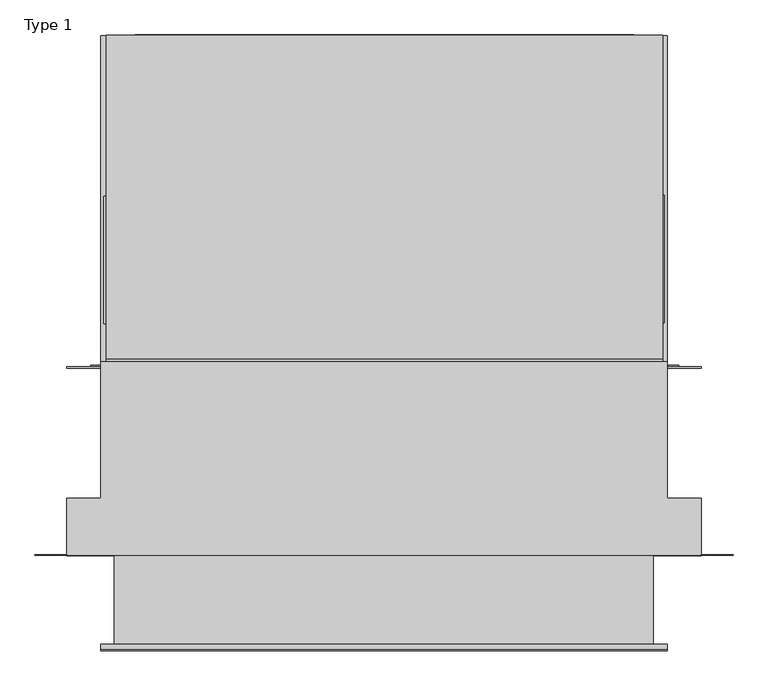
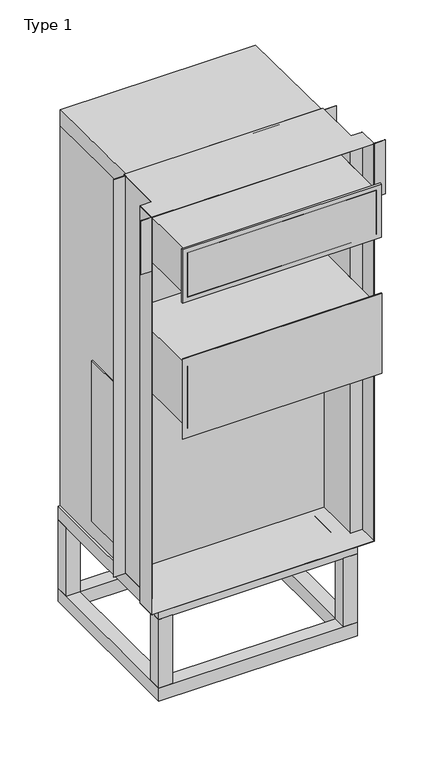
"""IFC4 building model written with IfcOpenShell, lengths in millimetres: proxy geometry, Uniflair_WMF0661_with_wallmountframe_and_Floorstand_BIM_Model : Type 1."""

import ifcopenshell
import ifcopenshell.guid

model = None  # the IFC model being written
_history = None  # IfcOwnerHistory: only IFC2X3 demands one
_inside = {}  # id of a spatial element -> (the spatial element, [elements in it])
_under = {}  # id of a project, library or spatial element -> (it, [spatial elements below it])
_declared = {}  # id of a project -> (the project, [libraries it declares])
_typed = {}  # id of a type object -> (the type object, [elements of that type])
_made_of = {}  # id of a material, layer set ... -> (it, [elements and type objects made of it])


def new_model(schema):
    """Start an empty IFC model of exactly this schema.

    Asked for "IFC4X3", IfcOpenShell would pick the latest addendum, in which some entities
    have other attributes; the version numbers below select the first issue.
    IFC2X3 requires an IfcOwnerHistory on every rooted entity: one is made here for all.
    """
    global model, _history
    if schema == "IFC4X3":
        model = ifcopenshell.file(schema_version=(4, 3, 0, 0))
    else:
        model = ifcopenshell.file(schema=schema)
    _inside.clear()
    _under.clear()
    _declared.clear()
    _typed.clear()
    _made_of.clear()
    _history = None
    if model.schema == "IFC2X3":
        org = make("IfcOrganization", Name="unknown")
        user = make(
            "IfcPersonAndOrganization",
            ThePerson=make("IfcPerson", FamilyName="unknown"),
            TheOrganization=org,
        )
        app = make(
            "IfcApplication",
            ApplicationDeveloper=org,
            Version="unknown",
            ApplicationFullName="unknown",
            ApplicationIdentifier="unknown",
        )
        _history = make(
            "IfcOwnerHistory",
            OwningUser=user,
            OwningApplication=app,
            ChangeAction="ADDED",
            CreationDate=0,
        )
    return model


def make(cls, **values):
    """One entity of the class cls with the attributes given. An attribute that is None is left unset."""
    return model.create_entity(
        cls, **{name: value for name, value in values.items() if value is not None}
    )


def rooted(cls, **values):
    """An entity with a GlobalId (a new one), such as an element, a storey or a relation."""
    return make(cls, GlobalId=ifcopenshell.guid.new(), OwnerHistory=_history, **values)


def si_unit(unit_type, name, prefix=None):
    """IfcSIUnit, for example si_unit("LENGTHUNIT", "METRE", prefix="MILLI")."""
    return make("IfcSIUnit", UnitType=unit_type, Prefix=prefix, Name=name)


def assignment(units):
    """IfcUnitAssignment: the units of a project."""
    return None if units is None else make("IfcUnitAssignment", Units=units)


def point(xyz):
    """IfcCartesianPoint."""
    return None if xyz is None else make("IfcCartesianPoint", Coordinates=xyz)


def direction(xyz):
    """IfcDirection."""
    return None if xyz is None else make("IfcDirection", DirectionRatios=xyz)


def frame(location, z_axis=None, x_axis=None):
    """IfcAxis2Placement3D, a coordinate frame: its origin and axes. An axis left out is left unset."""
    return make(
        "IfcAxis2Placement3D",
        Location=point(location),
        Axis=direction(z_axis),
        RefDirection=direction(x_axis),
    )


def frame_2d(location, x_axis=None):
    """IfcAxis2Placement2D, a coordinate frame in the plane: its origin and x axis."""
    return make(
        "IfcAxis2Placement2D", Location=point(location), RefDirection=direction(x_axis)
    )


def origin():
    """The frame at (0, 0, 0) with its axes left unset."""
    return frame((0.0, 0.0, 0.0))


def place(relative_to, where):
    """IfcLocalPlacement: puts the frame where relative to a parent placement (None: the world)."""
    return make(
        "IfcLocalPlacement", PlacementRelTo=relative_to, RelativePlacement=where
    )


def context(
    kind, dimensions, precision=None, world=None, true_north=None, identifier=None
):
    """IfcGeometricRepresentationContext, for example the 3D "Model" context."""
    return make(
        "IfcGeometricRepresentationContext",
        ContextIdentifier=identifier,
        ContextType=kind,
        CoordinateSpaceDimension=dimensions,
        Precision=precision,
        WorldCoordinateSystem=world,
        TrueNorth=true_north,
    )


def project(units=None, contexts=None):
    """IfcProject with its units and contexts."""
    return rooted(
        "IfcProject",
        Name="project",
        RepresentationContexts=contexts,
        UnitsInContext=assignment(units),
    )


def spatial(cls, under=None, at=None, **own):
    """A site, building, storey or space (cls), placed at a placement, below another one or the project."""
    s = rooted(cls, ObjectPlacement=at, **own)
    if under is not None:
        _under.setdefault(under.id(), (under, []))[1].append(s)
    return s


def polyline(points):
    """IfcPolyline through the points."""
    return make("IfcPolyline", Points=[point(p) for p in points])


def circle_curve(where, radius):
    """IfcCircle in the frame where."""
    return make("IfcCircle", Position=where, Radius=radius)


def trimmed(basis, trim1, trim2, sense, master):
    """IfcTrimmedCurve: the piece of a basis curve between two trims."""
    return make(
        "IfcTrimmedCurve",
        BasisCurve=basis,
        Trim1=trim1,
        Trim2=trim2,
        SenseAgreement=sense,
        MasterRepresentation=master,
    )


def segment(curve, same_sense, transition):
    """IfcCompositeCurveSegment."""
    return make(
        "IfcCompositeCurveSegment",
        Transition=transition,
        SameSense=same_sense,
        ParentCurve=curve,
    )


def composite_curve(segments, self_intersect=None):
    """IfcCompositeCurve: segments joined end to end."""
    return make("IfcCompositeCurve", Segments=segments, SelfIntersect=self_intersect)


def outline(outer, holes=None, kind="AREA"):
    """IfcArbitraryClosedProfileDef: a profile drawn as a closed curve; with holes, ...WithVoids."""
    if holes is None:
        return make("IfcArbitraryClosedProfileDef", ProfileType=kind, OuterCurve=outer)
    return make(
        "IfcArbitraryProfileDefWithVoids",
        ProfileType=kind,
        OuterCurve=outer,
        InnerCurves=holes,
    )


def extrude(swept, where, along, depth):
    """IfcExtrudedAreaSolid: the profile swept, set in the frame where, extruded along a direction by depth."""
    return make(
        "IfcExtrudedAreaSolid",
        SweptArea=swept,
        Position=where,
        ExtrudedDirection=direction(along),
        Depth=depth,
    )


def shape(context_of_items, identifier, shape_type, items):
    """IfcShapeRepresentation: the items that make up one representation, for example the "Body"."""
    return make(
        "IfcShapeRepresentation",
        ContextOfItems=context_of_items,
        RepresentationIdentifier=identifier,
        RepresentationType=shape_type,
        Items=items,
    )


def source(mapping_origin, context_of_items, identifier, shape_type, items):
    """IfcRepresentationMap: a shape defined once, which mapped items show again and again."""
    return make(
        "IfcRepresentationMap",
        MappingOrigin=mapping_origin,
        MappedRepresentation=shape(context_of_items, identifier, shape_type, items),
    )


def transform(
    local_origin,
    x_axis=None,
    y_axis=None,
    z_axis=None,
    scale=None,
    scale2=None,
    scale3=None,
    uniform=True,
):
    """IfcCartesianTransformationOperator3D, or its non-uniform kind. x_axis, y_axis, z_axis: its Axis1, 2, 3."""
    if uniform:
        return make(
            "IfcCartesianTransformationOperator3D",
            Axis1=direction(x_axis),
            Axis2=direction(y_axis),
            LocalOrigin=point(local_origin),
            Scale=scale,
            Axis3=direction(z_axis),
        )
    return make(
        "IfcCartesianTransformationOperator3DnonUniform",
        Axis1=direction(x_axis),
        Axis2=direction(y_axis),
        LocalOrigin=point(local_origin),
        Scale=scale,
        Axis3=direction(z_axis),
        Scale2=scale2,
        Scale3=scale3,
    )


def mapped(mapping_source, mapping_target):
    """IfcMappedItem: shows the shape of a source again, moved by a transform."""
    return make(
        "IfcMappedItem", MappingSource=mapping_source, MappingTarget=mapping_target
    )


def made_of(thing, what):
    """Note that an element or type object is made of a material, layer set ...; save() writes the relation."""
    if what is not None:
        _made_of.setdefault(what.id(), (what, []))[1].append(thing)
    return thing


def element(
    cls,
    number,
    at=None,
    inside=None,
    cuts=None,
    type_object=None,
    material=None,
    context=None,
    identifier="Body",
    shape_type=None,
    held_by="IfcProductDefinitionShape",
    body=None,
    shapes=None,
    **own,
):
    """One element of the class cls, such as IfcWall. Its Tag is "e" and its number.

    at: its placement. inside: the storey or other place that contains it. cuts: it is an
    opening in that element (IfcRelVoidsElement). A single representation is given by context,
    identifier, shape_type and body (its items); several are given by shapes. held_by: the class
    of the entity that holds the representations. save() writes the other relations.
    """
    e = rooted(cls, Tag="e%d" % number, ObjectPlacement=at, **own)
    if body is not None:
        shapes = [shape(context, identifier, shape_type, body)]
    if shapes is not None:
        e.Representation = make(held_by, Representations=shapes)
    if inside is not None:
        _inside.setdefault(inside.id(), (inside, []))[1].append(e)
    if cuts is not None:
        rooted(
            "IfcRelVoidsElement", RelatingBuildingElement=cuts, RelatedOpeningElement=e
        )
    if type_object is not None:
        _typed.setdefault(type_object.id(), (type_object, []))[1].append(e)
    return made_of(e, material)


def aggregate(whole, parts):
    """IfcRelAggregates: a whole, such as a stair, and the parts it consists of."""
    return rooted("IfcRelAggregates", RelatingObject=whole, RelatedObjects=parts)


def save(model, path):
    """Write the relations noted so far, then the file.

    IfcRelAggregates (storeys below a building ...), IfcRelContainedInSpatialStructure (elements
    in a storey), IfcRelDefinesByType, IfcRelAssociatesMaterial and IfcRelDeclares: one each for
    every whole, place, type object, material and project.
    """
    for whole, parts in _under.values():
        aggregate(whole, parts)
    for where, things in _inside.values():
        rooted(
            "IfcRelContainedInSpatialStructure",
            RelatedElements=things,
            RelatingStructure=where,
        )
    for kind, things in _typed.values():
        rooted("IfcRelDefinesByType", RelatedObjects=things, RelatingType=kind)
    for what, things in _made_of.values():
        rooted("IfcRelAssociatesMaterial", RelatedObjects=things, RelatingMaterial=what)
    for by, libraries in _declared.values():
        rooted("IfcRelDeclares", RelatingContext=by, RelatedDefinitions=libraries)
    model.write(path)


def type_1_70e9cce0(model_context):
    return source(origin(), model_context, "Body", "SweptSolid", [
        extrude(outline(polyline([(-458.5, 964.8268395), (-534.5, 964.8268395), (-534.5, 1040.8268395), (-458.5, 1040.8268395), (-458.5, 964.8268395)])), frame((0.0, 0.0, 301.0), z_axis=(0.0, 0.0, 1.0), x_axis=(1.0, 0.0, 0.0)), (0.0, 0.0, 1.0), 389.0),
        extrude(outline(polyline([(534.5, 964.8268395), (458.5, 964.8268395), (458.5, 1040.8268395), (534.5, 1040.8268395), (534.5, 964.8268395)])), frame((0.0, 0.0, 301.0), z_axis=(0.0, 0.0, 1.0), x_axis=(1.0, 0.0, 0.0)), (0.0, 0.0, 1.0), 389.0),
        extrude(outline(polyline([(-458.5, 104.8268395), (-534.5, 104.8268395), (-534.5, 180.8268395), (-458.5, 180.8268395), (-458.5, 104.8268395)])), frame((0.0, 0.0, 301.0), z_axis=(0.0, 0.0, 1.0), x_axis=(1.0, 0.0, 0.0)), (0.0, 0.0, 1.0), 389.0),
        extrude(outline(polyline([(534.5, 104.8268395), (458.5, 104.8268395), (458.5, 180.8268395), (534.5, 180.8268395), (534.5, 104.8268395)])), frame((0.0, 0.0, 301.0), z_axis=(0.0, 0.0, 1.0), x_axis=(1.0, 0.0, 0.0)), (0.0, 0.0, 1.0), 389.0),
        extrude(outline(polyline([(534.5, 1040.8268395), (534.5, 104.8268395), (-534.5, 104.8268395), (-534.5, 1040.8268395), (534.5, 1040.8268395)]), holes=[polyline([(458.5, 964.8268395), (-458.5, 964.8268395), (-458.5, 180.8268395), (458.5, 180.8268395), (458.5, 964.8268395)])]), frame((0.0, 0.0, 225.0), z_axis=(0.0, 0.0, 1.0), x_axis=(1.0, 0.0, 0.0)), (0.0, 0.0, 1.0), 76.0),
        extrude(outline(polyline([(534.5, 1040.8268395), (534.5, 104.8268395), (-534.5, 104.8268395), (-534.5, 1040.8268395), (534.5, 1040.8268395)]), holes=[polyline([(458.5, 964.8268395), (-458.5, 964.8268395), (-458.5, 180.8268395), (458.5, 180.8268395), (458.5, 964.8268395)])]), frame((0.0, 0.0, 690.0), z_axis=(0.0, 0.0, 1.0), x_axis=(1.0, 0.0, 0.0)), (0.0, 0.0, 1.0), 76.0),
        extrude(outline(polyline([(523.8018802, 499.2474607), (523.8018802, 739.2474607), (529.0, 739.2474607), (529.0, 499.2474607), (523.8018802, 499.2474607)])), frame((0.0, 0.0, 862.8466177), z_axis=(0.0, 0.0, 1.0), x_axis=(1.0, 0.0, 0.0)), (0.0, 0.0, 1.0), 911.3275465),
        extrude(outline(composite_curve([segment(trimmed(circle_curve(frame_2d((2763.0043914, 449.5834139)), 20.0), [point((2763.0043914, 469.5834139))], [point((2763.0043914, 429.5834139))], False, "CARTESIAN"), True, "CONTINUOUS"), segment(trimmed(circle_curve(frame_2d((2763.0043914, 449.5834139)), 20.0), [point((2763.0043914, 429.5834139))], [point((2763.0043914, 469.5834139))], False, "CARTESIAN"), True, "CONTINUOUS")], self_intersect=False)), frame((0.0, 412.8268395, 0.0), z_axis=(0.0, 1.0, 0.0), x_axis=(0.0, 0.0, 1.0)), (0.0, 0.0, 1.0), 3.0),
        extrude(outline(composite_curve([segment(trimmed(circle_curve(frame_2d((2763.0043914, -449.5834139)), 20.0), [point((2763.0043914, -469.5834139))], [point((2763.0043914, -429.5834139))], False, "CARTESIAN"), True, "CONTINUOUS"), segment(trimmed(circle_curve(frame_2d((2763.0043914, -449.5834139)), 20.0), [point((2763.0043914, -429.5834139))], [point((2763.0043914, -469.5834139))], False, "CARTESIAN"), True, "CONTINUOUS")], self_intersect=False)), frame((0.0, 412.8268395, 0.0), z_axis=(0.0, 1.0, 0.0), x_axis=(0.0, 0.0, 1.0)), (0.0, 0.0, 1.0), 3.0),
        extrude(outline(polyline([(2977.443345, -553.6016093), (827.1766168, -553.6016093), (795.3178142, -521.7428067), (795.3178142, 524.5388953), (827.1769097, 556.398405), (2977.4437593, 556.398405), (2997.5199213, 536.3223685), (2997.5199213, -533.5255729), (2977.443345, -553.6016093)])), frame((0.0, 415.8268395, 0.0), z_axis=(0.0, 1.0, 0.0), x_axis=(0.0, 0.0, 1.0)), (0.0, 0.0, 1.0), 3.0),
        extrude(outline(polyline([(-523.8018802, 737.2881534), (-523.8018802, 497.2881534), (-529.0, 497.2881534), (-529.0, 737.2881534), (-523.8018802, 737.2881534)])), frame((0.0, 0.0, 862.8466177), z_axis=(0.0, 0.0, 1.0), x_axis=(1.0, 0.0, 0.0)), (0.0, 0.0, 1.0), 911.3275465),
        extrude(outline(polyline([(-468.8041663, 1041.8268395), (471.1958337, 1041.8268395), (471.1958337, 1040.8268395), (-468.8041663, 1040.8268395), (-468.8041663, 1041.8268395)])), frame((0.0, 0.0, 1820.2781805), z_axis=(0.0, 0.0, 1.0), x_axis=(1.0, 0.0, 0.0)), (0.0, 0.0, 1.0), 380.0),
        extrude(outline(polyline([(-493.8018802, 1041.8268395), (201.1981198, 1041.8268395), (201.1981198, 1040.8268395), (-493.8018802, 1040.8268395), (-493.8018802, 1041.8268395)])), frame((0.0, 0.0, 858.3506603), z_axis=(0.0, 0.0, 1.0), x_axis=(1.0, 0.0, 0.0)), (0.0, 0.0, 1.0), 631.3275465),
        extrude(outline(polyline([(1040.8268395, 2920.743452), (431.0724021, 2928.5674831), (431.0724021, 3019.0), (1040.8268395, 3011.1453952), (1040.8268395, 2920.743452)])), frame((-523.8018802, 0.0, 0.0), z_axis=(1.0, 0.0, 0.0), x_axis=(0.0, 1.0, 0.0)), (0.0, 0.0, 1.0), 1049.9976998),
        extrude(outline(polyline([(2928.3296054, -523.8018802), (767.7926473, -523.8018802), (767.7926473, -519.8031702), (769.0139798, -519.8031702), (769.0139798, 522.2010067), (768.1751637, 522.200797), (768.1751637, 526.1968269), (2928.3296054, 526.1958388), (2928.3296054, -523.8018802)])), frame((0.0, 415.8268395, 0.0), z_axis=(0.0, 1.0, 0.0), x_axis=(0.0, 0.0, 1.0)), (0.0, 0.0, 1.0), 625.0),
        extrude(outline(polyline([(2253.0, 508.09413), (2253.0, -508.5), (1901.0, -508.5), (1901.0, 508.09413), (2253.0, 508.09413)]), holes=[polyline([(1902.0, -507.5), (2252.0, -507.5), (2252.0, 507.09413), (1902.0, 507.09413), (1902.0, -507.5)])]), frame((0.0, -117.3124501, 0.0), z_axis=(0.0, 1.0, 0.0), x_axis=(0.0, 0.0, 1.0)), (0.0, 0.0, 1.0), 530.1392896),
        extrude(outline(polyline([(-598.0, 59.9492), (-658.5, 59.9492), (-658.5, 60.9554027), (-598.0, 60.9554027), (-598.0, 59.9492)])), frame((0.0, 0.0, 2717.0), z_axis=(0.0, 0.0, 1.0), x_axis=(1.0, 0.0, 0.0)), (0.0, 0.0, 1.0), 305.0),
        extrude(outline(polyline([(658.5, 59.9492), (598.0, 59.9492), (598.0, 61.0929398), (658.5, 61.0929398), (658.5, 59.9492)])), frame((0.0, 0.0, 2717.0), z_axis=(0.0, 0.0, 1.0), x_axis=(1.0, 0.0, 0.0)), (0.0, 0.0, 1.0), 305.0),
        extrude(outline(polyline([(534.09413, 425.0317094), (534.09413, 168.0317094), (598.0, 168.0317094), (598.0, 59.9492), (-598.0, 59.9492), (-598.0, 168.0317094), (-534.5, 168.0317094), (-534.5, 425.0317094), (534.09413, 425.0317094)])), frame((0.0, 0.0, 3020.5646059), z_axis=(0.0, 0.0, 1.0), x_axis=(1.0, 0.0, 0.0)), (0.0, 0.0, 1.0), 1.4353941),
        extrude(outline(polyline([(534.09413, 425.0317094), (534.09413, 168.0317094), (598.0, 168.0317094), (598.0, 59.9492), (-598.0, 59.9492), (-598.0, 168.0317094), (-534.5, 168.0317094), (-534.5, 425.0317094), (534.09413, 425.0317094)])), frame((0.0, 0.0, 766.0), z_axis=(0.0, 0.0, 1.0), x_axis=(1.0, 0.0, 0.0)), (0.0, 0.0, 1.0), 1.4302096),
        extrude(outline(polyline([(534.5, -119.3124501), (-534.5, -119.3124501), (-534.5, -117.3124501), (534.5, -117.3124501), (534.5, -119.3124501)])), frame((0.0, 0.0, 1849.7834305), z_axis=(0.0, 0.0, 1.0), x_axis=(1.0, 0.0, 0.0)), (0.0, 0.0, 1.0), 454.0),
        extrude(outline(polyline([(2897.0, 508.09413), (2897.0, -508.5), (2645.0, -508.5), (2645.0, 508.09413), (2897.0, 508.09413)]), holes=[polyline([(2896.0, 507.09413), (2646.0, 507.09413), (2646.0, -507.5), (2896.0, -507.5), (2896.0, 507.09413)])]), frame((0.0, -117.3124501, 0.0), z_axis=(0.0, 1.0, 0.0), x_axis=(0.0, 0.0, 1.0)), (0.0, 0.0, 1.0), 530.1392896),
        extrude(outline(polyline([(534.5, -117.3124501), (-534.5, -117.3124501), (-534.5, -107.1075802), (534.5, -107.1075802), (534.5, -117.3124501)])), frame((0.0, 0.0, 2620.0), z_axis=(0.0, 0.0, 1.0), x_axis=(1.0, 0.0, 0.0)), (0.0, 0.0, 1.0), 302.0),
        extrude(outline(polyline([(-534.5, 168.0317094), (-534.5, 425.0317094), (534.09413, 425.0317094), (534.09413, 168.0317094), (598.0, 168.0317094), (598.0, 59.9492), (597.0, 59.9492), (597.0, 167.0317094), (533.09413, 167.0317094), (533.09413, 424.0317094), (-533.5, 424.0317094), (-533.5, 167.0317094), (-597.0, 167.0317094), (-597.0, 59.9492), (-598.0, 59.9492), (-598.0, 168.0317094), (-534.5, 168.0317094)])), frame((0.0, 0.0, 767.4302096), z_axis=(0.0, 0.0, 1.0), x_axis=(1.0, 0.0, 0.0)), (0.0, 0.0, 1.0), 2253.1343963),
        extrude(outline(polyline([(598.0, 412.8268395), (-598.0, 412.8268395), (-598.0, 415.8268395), (598.0, 415.8268395), (598.0, 412.8268395)])), frame((0.0, 0.0, 766.0), z_axis=(0.0, 0.0, 1.0), x_axis=(1.0, 0.0, 0.0)), (0.0, 0.0, 1.0), 2256.0),
    ])


if __name__ == "__main__":
    model = new_model("IFC4")
    model_context = context("Model", 3, world=origin())
    ifc_project = project(units=[si_unit("LENGTHUNIT", "METRE", prefix="MILLI")], contexts=[model_context])
    site = spatial("IfcSite", under=ifc_project)
    building = spatial("IfcBuilding", under=site)
    placement = place(None, origin())
    type_1_shape = type_1_70e9cce0(model_context)
    element("IfcBuildingElementProxy", 1, Name="Uniflair_WMF0661_with_wallmountframe_and_Floorstand_BIM_Model : Type 1", ObjectType="Uniflair_WMF0661_with_wallmountframe_and_Floorstand_BIM_Model : Type 1", at=placement, inside=building, context=model_context, shape_type="MappedRepresentation", body=[
        mapped(type_1_shape, transform((0.0, 0.0, 0.0), x_axis=(1.0, 0.0, 0.0), y_axis=(0.0, 1.0, 0.0), z_axis=(0.0, 0.0, 1.0))),
    ])
    save(model, "model.ifc")
